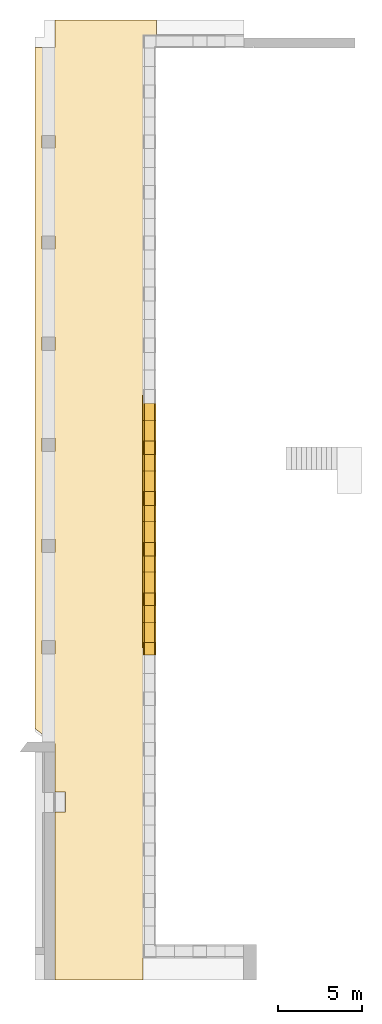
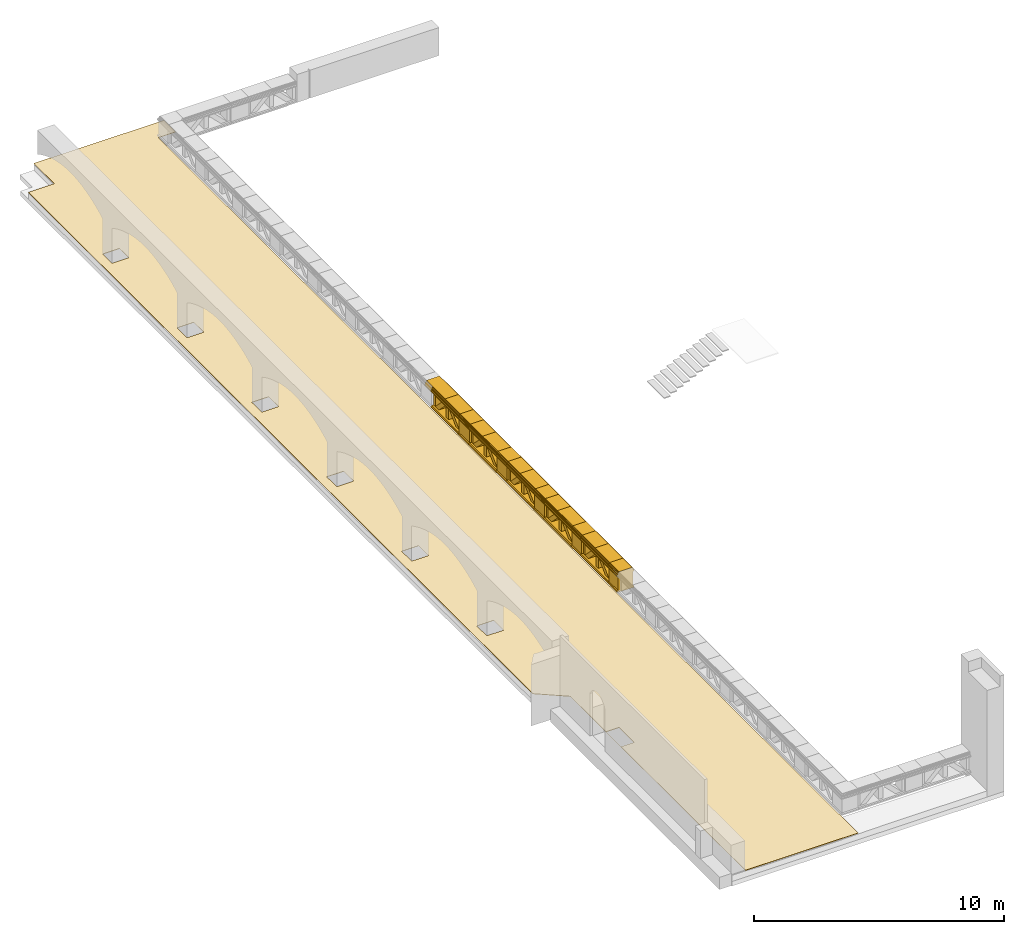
# One storey, part 7 of 9: 20 railings, 1 covering, 7 openings.
"""IFC2X3 building model written with IfcOpenShell, lengths in millimetres."""

import ifcopenshell
import ifcopenshell.guid

model = None  # the IFC model being written
_history = None  # IfcOwnerHistory: only IFC2X3 demands one
_inside = {}  # id of a spatial element -> (the spatial element, [elements in it])
_under = {}  # id of a project, library or spatial element -> (it, [spatial elements below it])
_declared = {}  # id of a project -> (the project, [libraries it declares])
_typed = {}  # id of a type object -> (the type object, [elements of that type])
_made_of = {}  # id of a material, layer set ... -> (it, [elements and type objects made of it])


def new_model(schema):
    """Start an empty IFC model of exactly this schema.

    Asked for "IFC4X3", IfcOpenShell would pick the latest addendum, in which some entities
    have other attributes; the version numbers below select the first issue.
    IFC2X3 requires an IfcOwnerHistory on every rooted entity: one is made here for all.
    """
    global model, _history
    if schema == "IFC4X3":
        model = ifcopenshell.file(schema_version=(4, 3, 0, 0))
    else:
        model = ifcopenshell.file(schema=schema)
    _inside.clear()
    _under.clear()
    _declared.clear()
    _typed.clear()
    _made_of.clear()
    _history = None
    if model.schema == "IFC2X3":
        org = make("IfcOrganization", Name="unknown")
        user = make(
            "IfcPersonAndOrganization",
            ThePerson=make("IfcPerson", FamilyName="unknown"),
            TheOrganization=org,
        )
        app = make(
            "IfcApplication",
            ApplicationDeveloper=org,
            Version="unknown",
            ApplicationFullName="unknown",
            ApplicationIdentifier="unknown",
        )
        _history = make(
            "IfcOwnerHistory",
            OwningUser=user,
            OwningApplication=app,
            ChangeAction="ADDED",
            CreationDate=0,
        )
    return model


def make(cls, **values):
    """One entity of the class cls with the attributes given. An attribute that is None is left unset."""
    return model.create_entity(
        cls, **{name: value for name, value in values.items() if value is not None}
    )


def entity(cls, *values):
    """Any entity or typed value of the class cls, its attributes in the order of the schema. None: left unset."""
    e = model.create_entity(cls)
    for i, value in enumerate(values):
        if value is not None:
            e[i] = value
    return e


def rooted(cls, **values):
    """An entity with a GlobalId (a new one), such as an element, a storey or a relation."""
    return make(cls, GlobalId=ifcopenshell.guid.new(), OwnerHistory=_history, **values)


def si_unit(unit_type, name, prefix=None):
    """IfcSIUnit, for example si_unit("LENGTHUNIT", "METRE", prefix="MILLI")."""
    return make("IfcSIUnit", UnitType=unit_type, Prefix=prefix, Name=name)


def converted_unit(unit_type, name, factor, base, dimensions=None, offset=None):
    """IfcConversionBasedUnit, such as the inch: factor (a typed value) times the base unit."""
    return make(
        "IfcConversionBasedUnit"
        if offset is None
        else "IfcConversionBasedUnitWithOffset",
        ConversionOffset=offset,
        Dimensions=None
        if dimensions is None
        else entity("IfcDimensionalExponents", *dimensions),
        UnitType=unit_type,
        Name=name,
        ConversionFactor=make(
            "IfcMeasureWithUnit", ValueComponent=factor, UnitComponent=base
        ),
    )


def derived_unit(unit_type, elements):
    """IfcDerivedUnit: a product of units, each with its exponent."""
    return make(
        "IfcDerivedUnit",
        Elements=[
            make("IfcDerivedUnitElement", Unit=unit, Exponent=power)
            for unit, power in elements
        ],
        UnitType=unit_type,
    )


def assignment(units):
    """IfcUnitAssignment: the units of a project."""
    return None if units is None else make("IfcUnitAssignment", Units=units)


def point(xyz):
    """IfcCartesianPoint."""
    return None if xyz is None else make("IfcCartesianPoint", Coordinates=xyz)


def direction(xyz):
    """IfcDirection."""
    return None if xyz is None else make("IfcDirection", DirectionRatios=xyz)


def frame(location, z_axis=None, x_axis=None):
    """IfcAxis2Placement3D, a coordinate frame: its origin and axes. An axis left out is left unset."""
    return make(
        "IfcAxis2Placement3D",
        Location=point(location),
        Axis=direction(z_axis),
        RefDirection=direction(x_axis),
    )


def frame_2d(location, x_axis=None):
    """IfcAxis2Placement2D, a coordinate frame in the plane: its origin and x axis."""
    return make(
        "IfcAxis2Placement2D", Location=point(location), RefDirection=direction(x_axis)
    )


def origin():
    """The frame at (0, 0, 0) with its axes left unset."""
    return frame((0.0, 0.0, 0.0))


def origin_2d_with_axis():
    """The frame at (0, 0) in the plane with the x axis (1, 0) written out."""
    return frame_2d((0.0, 0.0), x_axis=(1.0, 0.0))


def place(relative_to, where):
    """IfcLocalPlacement: puts the frame where relative to a parent placement (None: the world)."""
    return make(
        "IfcLocalPlacement", PlacementRelTo=relative_to, RelativePlacement=where
    )


def context(
    kind, dimensions, precision=None, world=None, true_north=None, identifier=None
):
    """IfcGeometricRepresentationContext, for example the 3D "Model" context."""
    return make(
        "IfcGeometricRepresentationContext",
        ContextIdentifier=identifier,
        ContextType=kind,
        CoordinateSpaceDimension=dimensions,
        Precision=precision,
        WorldCoordinateSystem=world,
        TrueNorth=true_north,
    )


def subcontext(parent, identifier, kind, view, scale=None):
    """IfcGeometricRepresentationSubContext, for example "Body" below "Model"."""
    return make(
        "IfcGeometricRepresentationSubContext",
        ContextIdentifier=identifier,
        ContextType=kind,
        ParentContext=parent,
        TargetScale=scale,
        TargetView=view,
    )


def project(units=None, contexts=None):
    """IfcProject with its units and contexts."""
    return rooted(
        "IfcProject",
        Name="project",
        RepresentationContexts=contexts,
        UnitsInContext=assignment(units),
    )


def spatial(cls, under=None, at=None, **own):
    """A site, building, storey or space (cls), placed at a placement, below another one or the project."""
    s = rooted(cls, ObjectPlacement=at, **own)
    if under is not None:
        _under.setdefault(under.id(), (under, []))[1].append(s)
    return s


def polyline(points):
    """IfcPolyline through the points."""
    return make("IfcPolyline", Points=[point(p) for p in points])


def profile(cls, at=None, kind="AREA", **sizes):
    """A parametric profile (cls). Its sizes go by their IFC names, for example OverallWidth=200.0."""
    return make(cls, ProfileType=kind, Position=at, **sizes)


def rectangle(**sizes):
    """IfcRectangleProfileDef."""
    return profile("IfcRectangleProfileDef", **sizes)


def outline(outer, holes=None, kind="AREA"):
    """IfcArbitraryClosedProfileDef: a profile drawn as a closed curve; with holes, ...WithVoids."""
    if holes is None:
        return make("IfcArbitraryClosedProfileDef", ProfileType=kind, OuterCurve=outer)
    return make(
        "IfcArbitraryProfileDefWithVoids",
        ProfileType=kind,
        OuterCurve=outer,
        InnerCurves=holes,
    )


def extrude(swept, where, along, depth):
    """IfcExtrudedAreaSolid: the profile swept, set in the frame where, extruded along a direction by depth."""
    return make(
        "IfcExtrudedAreaSolid",
        SweptArea=swept,
        Position=where,
        ExtrudedDirection=direction(along),
        Depth=depth,
    )


def faces_of(points, faces, orient=None, outer=None):
    """IfcFace entities. A face is a list of loops; a loop is a list of indices into points, from 0.

    orient and outer hold one flag for each loop. By default every Orientation is true, the
    first loop of a face is its IfcFaceOuterBound and the others are IfcFaceBound.
    """
    made = []
    for i, loops in enumerate(faces):
        bounds = []
        for j, loop in enumerate(loops):
            is_outer = j == 0 if outer is None else outer[i][j]
            bounds.append(
                make(
                    "IfcFaceOuterBound" if is_outer else "IfcFaceBound",
                    Bound=make("IfcPolyLoop", Polygon=[points[k] for k in loop]),
                    Orientation=True if orient is None else orient[i][j],
                )
            )
        made.append(make("IfcFace", Bounds=bounds))
    return made


def faceted_brep(points, faces, orient=None, outer=None, voids=None):
    """IfcFacetedBrep: a solid bounded by flat faces; with voids (closed shells), ...WithVoids."""
    shared = [point(p) for p in points]
    hull = make("IfcClosedShell", CfsFaces=faces_of(shared, faces, orient, outer))
    if voids is None:
        return make("IfcFacetedBrep", Outer=hull)
    return make(
        "IfcFacetedBrepWithVoids",
        Outer=hull,
        Voids=[
            make(cls, CfsFaces=faces_of(shared, fs, o, b)) for cls, fs, o, b in voids
        ],
    )


def shape(context_of_items, identifier, shape_type, items):
    """IfcShapeRepresentation: the items that make up one representation, for example the "Body"."""
    return make(
        "IfcShapeRepresentation",
        ContextOfItems=context_of_items,
        RepresentationIdentifier=identifier,
        RepresentationType=shape_type,
        Items=items,
    )


def source(mapping_origin, context_of_items, identifier, shape_type, items):
    """IfcRepresentationMap: a shape defined once, which mapped items show again and again."""
    return make(
        "IfcRepresentationMap",
        MappingOrigin=mapping_origin,
        MappedRepresentation=shape(context_of_items, identifier, shape_type, items),
    )


def transform(
    local_origin,
    x_axis=None,
    y_axis=None,
    z_axis=None,
    scale=None,
    scale2=None,
    scale3=None,
    uniform=True,
):
    """IfcCartesianTransformationOperator3D, or its non-uniform kind. x_axis, y_axis, z_axis: its Axis1, 2, 3."""
    if uniform:
        return make(
            "IfcCartesianTransformationOperator3D",
            Axis1=direction(x_axis),
            Axis2=direction(y_axis),
            LocalOrigin=point(local_origin),
            Scale=scale,
            Axis3=direction(z_axis),
        )
    return make(
        "IfcCartesianTransformationOperator3DnonUniform",
        Axis1=direction(x_axis),
        Axis2=direction(y_axis),
        LocalOrigin=point(local_origin),
        Scale=scale,
        Axis3=direction(z_axis),
        Scale2=scale2,
        Scale3=scale3,
    )


def mapped(mapping_source, mapping_target):
    """IfcMappedItem: shows the shape of a source again, moved by a transform."""
    return make(
        "IfcMappedItem", MappingSource=mapping_source, MappingTarget=mapping_target
    )


def material(Name=None, Category=None):
    """IfcMaterial."""
    return make("IfcMaterial", Name=Name, Category=Category)


def layer(
    of_material, thickness, ventilated=None, Name=None, Category=None, Priority=None
):
    """IfcMaterialLayer: one layer of a wall or slab, of a material (None: an air gap)."""
    return make(
        "IfcMaterialLayer",
        Material=of_material,
        LayerThickness=thickness,
        IsVentilated=ventilated,
        Name=Name,
        Category=Category,
        Priority=Priority,
    )


def layer_set(layers, Name=None):
    """IfcMaterialLayerSet."""
    return make("IfcMaterialLayerSet", MaterialLayers=layers, LayerSetName=Name)


def layer_usage(for_layer_set, set_direction, sense, offset, extent=None):
    """IfcMaterialLayerSetUsage: how a layer set lies in its element."""
    return make(
        "IfcMaterialLayerSetUsage",
        ForLayerSet=for_layer_set,
        LayerSetDirection=set_direction,
        DirectionSense=sense,
        OffsetFromReferenceLine=offset,
        ReferenceExtent=extent,
    )


def made_of(thing, what):
    """Note that an element or type object is made of a material, layer set ...; save() writes the relation."""
    if what is not None:
        _made_of.setdefault(what.id(), (what, []))[1].append(thing)
    return thing


def type_object(cls, material=None, **own):
    """A type object (cls), such as IfcWallType, which elements share."""
    return made_of(rooted(cls, **own), material)


def type_shapes(of_type, sources):
    """Give a type object the sources (RepresentationMaps) that its elements show as mapped items."""
    of_type.RepresentationMaps = sources


def element(
    cls,
    number,
    at=None,
    inside=None,
    cuts=None,
    type_object=None,
    material=None,
    context=None,
    identifier="Body",
    shape_type=None,
    held_by="IfcProductDefinitionShape",
    body=None,
    shapes=None,
    **own,
):
    """One element of the class cls, such as IfcWall. Its Tag is "e" and its number.

    at: its placement. inside: the storey or other place that contains it. cuts: it is an
    opening in that element (IfcRelVoidsElement). A single representation is given by context,
    identifier, shape_type and body (its items); several are given by shapes. held_by: the class
    of the entity that holds the representations. save() writes the other relations.
    """
    e = rooted(cls, Tag="e%d" % number, ObjectPlacement=at, **own)
    if body is not None:
        shapes = [shape(context, identifier, shape_type, body)]
    if shapes is not None:
        e.Representation = make(held_by, Representations=shapes)
    if inside is not None:
        _inside.setdefault(inside.id(), (inside, []))[1].append(e)
    if cuts is not None:
        rooted(
            "IfcRelVoidsElement", RelatingBuildingElement=cuts, RelatedOpeningElement=e
        )
    if type_object is not None:
        _typed.setdefault(type_object.id(), (type_object, []))[1].append(e)
    return made_of(e, material)


def aggregate(whole, parts):
    """IfcRelAggregates: a whole, such as a stair, and the parts it consists of."""
    return rooted("IfcRelAggregates", RelatingObject=whole, RelatedObjects=parts)


def save(model, path):
    """Write the relations noted so far, then the file.

    IfcRelAggregates (storeys below a building ...), IfcRelContainedInSpatialStructure (elements
    in a storey), IfcRelDefinesByType, IfcRelAssociatesMaterial and IfcRelDeclares: one each for
    every whole, place, type object, material and project.
    """
    for whole, parts in _under.values():
        aggregate(whole, parts)
    for where, things in _inside.values():
        rooted(
            "IfcRelContainedInSpatialStructure",
            RelatedElements=things,
            RelatingStructure=where,
        )
    for kind, things in _typed.values():
        rooted("IfcRelDefinesByType", RelatedObjects=things, RelatingType=kind)
    for what, things in _made_of.values():
        rooted("IfcRelAssociatesMaterial", RelatedObjects=things, RelatingMaterial=what)
    for by, libraries in _declared.values():
        rooted("IfcRelDeclares", RelatingContext=by, RelatedDefinitions=libraries)
    model.write(path)


model = new_model("IFC2X3")

# Units and contexts
model_context = context("Model", 3, precision=0.01, world=origin(), true_north=direction((6.123031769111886e-17, 1.0)))
body_context = subcontext(model_context, "Body", "Model", "MODEL_VIEW")
ifc_project = project(units=[si_unit("LENGTHUNIT", "METRE", prefix="MILLI"), si_unit("AREAUNIT", "SQUARE_METRE"), si_unit("VOLUMEUNIT", "CUBIC_METRE"), converted_unit("PLANEANGLEUNIT", "DEGREE", entity("IfcPlaneAngleMeasure", 0.017453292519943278), si_unit("PLANEANGLEUNIT", "RADIAN"), dimensions=[0, 0, 0, 0, 0, 0, 0]), si_unit("MASSUNIT", "GRAM", prefix="KILO"), derived_unit("MASSDENSITYUNIT", [(si_unit("MASSUNIT", "GRAM", prefix="KILO"), 1), (si_unit("LENGTHUNIT", "METRE"), -3)]), derived_unit("IONCONCENTRATIONUNIT", [(si_unit("MASSUNIT", "GRAM", prefix="KILO"), 1), (si_unit("LENGTHUNIT", "METRE"), -3)]), derived_unit("MOMENTOFINERTIAUNIT", [(si_unit("LENGTHUNIT", "METRE"), 4)]), si_unit("TIMEUNIT", "SECOND"), si_unit("FREQUENCYUNIT", "HERTZ"), si_unit("THERMODYNAMICTEMPERATUREUNIT", "DEGREE_CELSIUS"), derived_unit("THERMALTRANSMITTANCEUNIT", [(si_unit("MASSUNIT", "GRAM", prefix="KILO"), 1), (si_unit("THERMODYNAMICTEMPERATUREUNIT", "KELVIN"), -1), (si_unit("TIMEUNIT", "SECOND"), -3)]), derived_unit("THERMALCONDUCTANCEUNIT", [(si_unit("MASSUNIT", "GRAM", prefix="KILO"), 1), (si_unit("THERMODYNAMICTEMPERATUREUNIT", "KELVIN"), -1), (si_unit("TIMEUNIT", "SECOND"), -3), (si_unit("LENGTHUNIT", "METRE"), 1)]), derived_unit("VOLUMETRICFLOWRATEUNIT", [(si_unit("LENGTHUNIT", "METRE", prefix="DECI"), 3), (si_unit("TIMEUNIT", "SECOND"), -1)]), derived_unit("MASSFLOWRATEUNIT", [(si_unit("MASSUNIT", "GRAM", prefix="KILO"), 1), (si_unit("TIMEUNIT", "SECOND"), -1)]), derived_unit("ROTATIONALFREQUENCYUNIT", [(si_unit("TIMEUNIT", "SECOND"), -1)]), si_unit("ELECTRICCURRENTUNIT", "AMPERE"), si_unit("ELECTRICVOLTAGEUNIT", "VOLT"), si_unit("POWERUNIT", "WATT"), si_unit("FORCEUNIT", "NEWTON", prefix="KILO"), si_unit("ILLUMINANCEUNIT", "LUX"), si_unit("LUMINOUSFLUXUNIT", "LUMEN"), si_unit("LUMINOUSINTENSITYUNIT", "CANDELA"), si_unit("ENERGYUNIT", "JOULE"), derived_unit("USERDEFINED", [(si_unit("MASSUNIT", "GRAM", prefix="KILO"), -1), (si_unit("LENGTHUNIT", "METRE"), -2), (si_unit("TIMEUNIT", "SECOND"), 3), (si_unit("LUMINOUSFLUXUNIT", "LUMEN"), 1)]), derived_unit("USERDEFINED", [(si_unit("MASSUNIT", "GRAM", prefix="KILO"), 1), (si_unit("TIMEUNIT", "SECOND"), -3), (si_unit("LENGTHUNIT", "METRE"), 3), (si_unit("ELECTRICCURRENTUNIT", "AMPERE"), -2)]), derived_unit("SOUNDPOWERUNIT", [(si_unit("MASSUNIT", "GRAM", prefix="KILO"), 1), (si_unit("TIMEUNIT", "SECOND"), -3), (si_unit("LENGTHUNIT", "METRE"), 2)]), derived_unit("SOUNDPRESSUREUNIT", [(si_unit("MASSUNIT", "GRAM", prefix="KILO"), 1), (si_unit("LENGTHUNIT", "METRE"), -1), (si_unit("TIMEUNIT", "SECOND"), -2)]), derived_unit("LINEARVELOCITYUNIT", [(si_unit("LENGTHUNIT", "METRE"), 1), (si_unit("TIMEUNIT", "SECOND"), -1)]), si_unit("PRESSUREUNIT", "PASCAL"), derived_unit("USERDEFINED", [(si_unit("MASSUNIT", "GRAM", prefix="KILO"), 1), (si_unit("LENGTHUNIT", "METRE"), -2), (si_unit("TIMEUNIT", "SECOND"), -2)]), derived_unit("LINEARFORCEUNIT", [(si_unit("MASSUNIT", "GRAM", prefix="KILO"), 1), (si_unit("TIMEUNIT", "SECOND"), -2)]), derived_unit("PLANARFORCEUNIT", [(si_unit("MASSUNIT", "GRAM", prefix="KILO"), 1), (si_unit("LENGTHUNIT", "METRE"), -1), (si_unit("TIMEUNIT", "SECOND"), -2)]), derived_unit("SPECIFICHEATCAPACITYUNIT", [(si_unit("THERMODYNAMICTEMPERATUREUNIT", "KELVIN"), -1), (si_unit("LENGTHUNIT", "METRE"), 2), (si_unit("TIMEUNIT", "SECOND"), -2)]), derived_unit("HEATFLUXDENSITYUNIT", [(si_unit("MASSUNIT", "GRAM", prefix="KILO"), 1), (si_unit("TIMEUNIT", "SECOND"), -3)]), derived_unit("HEATINGVALUEUNIT", [(si_unit("LENGTHUNIT", "METRE"), 2), (si_unit("TIMEUNIT", "SECOND"), -2)]), derived_unit("VAPORPERMEABILITYUNIT", [(si_unit("LENGTHUNIT", "METRE"), -1), (si_unit("TIMEUNIT", "SECOND"), 1)]), derived_unit("DYNAMICVISCOSITYUNIT", [(si_unit("MASSUNIT", "GRAM", prefix="KILO"), 1), (si_unit("TIMEUNIT", "SECOND"), -1), (si_unit("LENGTHUNIT", "METRE"), -1)]), derived_unit("THERMALEXPANSIONCOEFFICIENTUNIT", [(si_unit("THERMODYNAMICTEMPERATUREUNIT", "KELVIN"), -1)]), derived_unit("MODULUSOFELASTICITYUNIT", [(si_unit("MASSUNIT", "GRAM", prefix="KILO"), 1), (si_unit("LENGTHUNIT", "METRE"), -1), (si_unit("TIMEUNIT", "SECOND"), -2)]), derived_unit("ISOTHERMALMOISTURECAPACITYUNIT", [(si_unit("MASSUNIT", "GRAM", prefix="KILO"), -1), (si_unit("LENGTHUNIT", "METRE"), 3)]), derived_unit("MOISTUREDIFFUSIVITYUNIT", [(si_unit("TIMEUNIT", "SECOND"), -1), (si_unit("LENGTHUNIT", "METRE"), 2)]), derived_unit("MASSPERLENGTHUNIT", [(si_unit("MASSUNIT", "GRAM", prefix="KILO"), 1), (si_unit("LENGTHUNIT", "METRE"), -1)]), derived_unit("THERMALRESISTANCEUNIT", [(si_unit("MASSUNIT", "GRAM", prefix="KILO"), -1), (si_unit("TIMEUNIT", "SECOND"), 3), (si_unit("THERMODYNAMICTEMPERATUREUNIT", "KELVIN"), 1)]), derived_unit("ACCELERATIONUNIT", [(si_unit("LENGTHUNIT", "METRE"), 1), (si_unit("TIMEUNIT", "SECOND"), -2)]), derived_unit("ANGULARVELOCITYUNIT", [(si_unit("TIMEUNIT", "SECOND"), -1), (si_unit("PLANEANGLEUNIT", "RADIAN"), 1)]), derived_unit("LINEARSTIFFNESSUNIT", [(si_unit("MASSUNIT", "GRAM", prefix="KILO"), 1), (si_unit("TIMEUNIT", "SECOND"), -2)]), derived_unit("WARPINGCONSTANTUNIT", [(si_unit("LENGTHUNIT", "METRE"), 6)]), derived_unit("LINEARMOMENTUNIT", [(si_unit("MASSUNIT", "GRAM", prefix="KILO"), 1), (si_unit("LENGTHUNIT", "METRE"), 1), (si_unit("TIMEUNIT", "SECOND"), -2)]), derived_unit("TORQUEUNIT", [(si_unit("MASSUNIT", "GRAM", prefix="KILO"), 1), (si_unit("LENGTHUNIT", "METRE"), 2), (si_unit("TIMEUNIT", "SECOND"), -2)])], contexts=[model_context])

# Site, building, storey
site_placement = place(None, origin())
site = spatial("IfcSite", under=ifc_project, at=site_placement, Name="Default", CompositionType="ELEMENT")
building_placement = place(site_placement, origin())
building = spatial("IfcBuilding", under=site, at=building_placement, Name="Eesti Rahvusraamatukogu hoone renoveerimise projekteerimistööd", CompositionType="ELEMENT")
storey_placement = place(building_placement, frame((0.0, 0.0, 3100.0)))
storey = spatial("IfcBuildingStorey", under=building, at=storey_placement, Name="E-korpus 2. korrus", CompositionType="ELEMENT", Elevation=3100.0)

# Covering, openings
ifc_material_1 = material(Name="EST. Betoonplaat tume")
ifc_layer = layer(ifc_material_1, 20.0)
ifc_layer_set = layer_set([ifc_layer], Name="Basic Roof:TV-01 plaat 1 (tume)")
ifc_layer_usage = layer_usage(ifc_layer_set, "AXIS3", "NEGATIVE", 0.0)
covering_type = type_object("IfcCoveringType", Name="Basic Roof:TV-01 plaat 1 (tume)", PredefinedType="NOTDEFINED")
covering_placement = place(storey_placement, frame((-49781.62808124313, -1321.279790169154, 410.0)))
covering = element("IfcCovering", 1, at=covering_placement, inside=storey, type_object=covering_type, material=ifc_layer_usage, Name="Basic Roof:TV-01 plaat 1 (tume)", ObjectType="Basic Roof:TV-01 plaat 1 (tume)", PredefinedType="NOTDEFINED", context=body_context, shape_type="SweptSolid", body=[
    extrude(outline(polyline([(2006.6743837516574, -18767.746340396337), (3205.8024649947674, -18767.746340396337), (3205.8024649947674, 21636.799927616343), (2006.6743837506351, 22540.40774982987), (2006.6743837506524, 36559.33344977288), (-3203.3256162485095, 36559.33344977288), (-3203.3256162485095, -19472.322620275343), (-4015.8256162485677, -19472.322620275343), (-4015.8256162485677, -20407.8683278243), (2006.6743837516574, -20407.8683278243), (2006.6743837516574, -18767.746340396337)])), frame((3205.8024649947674, 36559.33344977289, 0.0), z_axis=(0.0, 0.0, 1.0), x_axis=(-1.0, 0.0, 0.0)), (0.0, 0.0, 1.0), 19.999999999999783),
])
opening_1_placement = place(storey_placement, frame((-49781.62808124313, -1321.279790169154, 410.0)))
element("IfcOpeningElement", 2, at=opening_1_placement, cuts=covering, Name="Basic Roof:TV-01 plaat 1 (tume):1", ObjectType="Opening", context=body_context, shape_type="SweptSolid", body=[
    extrude(rectangle(XDim=600.0000000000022, YDim=1200.0000000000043, at=origin_2d_with_axis()), frame((1501.6280812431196, 10561.938141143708, 0.0), z_axis=(0.0, 0.0, 1.0), x_axis=(-1.0, 0.0, 0.0)), (0.0, 0.0, 1.0), 19.999999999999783),
])
opening_2_placement = place(storey_placement, frame((-49781.62808124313, -1321.279790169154, 410.0)))
element("IfcOpeningElement", 3, at=opening_2_placement, cuts=covering, Name="Basic Roof:TV-01 plaat 1 (tume):2", ObjectType="Opening", context=body_context, shape_type="SweptSolid", body=[
    extrude(rectangle(XDim=779.9999999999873, YDim=792.9237201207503, at=frame_2d((-4.320099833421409e-12, 0.0), x_axis=(1.0, 0.0))), frame((809.1280812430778, 31763.5416502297, 0.0)), (0.0, 0.0, 1.0), 19.999999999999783),
])
opening_3_placement = place(storey_placement, frame((-49781.62808124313, -1321.279790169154, 410.0)))
element("IfcOpeningElement", 4, at=opening_3_placement, cuts=covering, Name="Basic Roof:TV-01 plaat 1 (tume):3", ObjectType="Opening", context=body_context, shape_type="SweptSolid", body=[
    extrude(rectangle(XDim=792.9237201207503, YDim=779.9999999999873, at=frame_2d((0.0, 4.320099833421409e-12), x_axis=(1.0, 0.0))), frame((809.1280812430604, 25763.54165022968, 0.0), z_axis=(0.0, 0.0, 1.0), x_axis=(0.0, -1.0, 0.0)), (0.0, 0.0, 1.0), 19.999999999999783),
])
opening_4_placement = place(storey_placement, frame((-49781.62808124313, -1321.279790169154, 410.0)))
element("IfcOpeningElement", 5, at=opening_4_placement, cuts=covering, Name="Basic Roof:TV-01 plaat 1 (tume):4", ObjectType="Opening", context=body_context, shape_type="SweptSolid", body=[
    extrude(rectangle(XDim=792.9237201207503, YDim=779.9999999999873, at=frame_2d((0.0, 4.320099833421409e-12), x_axis=(1.0, 0.0))), frame((809.1280812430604, 19750.61793010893, 0.0), z_axis=(0.0, 0.0, 1.0), x_axis=(0.0, 1.0, 0.0)), (0.0, 0.0, 1.0), 19.999999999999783),
])
opening_5_placement = place(storey_placement, frame((-49781.62808124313, -1321.279790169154, 410.0)))
element("IfcOpeningElement", 6, at=opening_5_placement, cuts=covering, Name="Basic Roof:TV-01 plaat 1 (tume):5", ObjectType="Opening", context=body_context, shape_type="SweptSolid", body=[
    extrude(rectangle(XDim=792.9237201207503, YDim=779.9999999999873, at=frame_2d((0.0, 4.320099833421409e-12), x_axis=(1.0, 0.0))), frame((809.1280812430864, 43763.54165022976, 0.0), z_axis=(0.0, 0.0, 1.0), x_axis=(0.0, -1.0, 0.0)), (0.0, 0.0, 1.0), 19.999999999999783),
])
opening_6_placement = place(storey_placement, frame((-49781.62808124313, -1321.279790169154, 410.0)))
element("IfcOpeningElement", 7, at=opening_6_placement, cuts=covering, Name="Basic Roof:TV-01 plaat 1 (tume):6", ObjectType="Opening", context=body_context, shape_type="SweptSolid", body=[
    extrude(rectangle(XDim=792.9237201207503, YDim=779.9999999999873, at=frame_2d((4.320099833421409e-12, 4.320099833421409e-12), x_axis=(1.0, 0.0))), frame((809.1280812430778, 37763.54165022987, 0.0), z_axis=(0.0, 0.0, 1.0), x_axis=(0.0, -1.0, 0.0)), (0.0, 0.0, 1.0), 19.999999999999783),
])
opening_7_placement = place(storey_placement, frame((-49781.62808124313, -1321.279790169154, 410.0)))
element("IfcOpeningElement", 8, at=opening_7_placement, cuts=covering, Name="Basic Roof:TV-01 plaat 1 (tume):7", ObjectType="Opening", context=body_context, shape_type="SweptSolid", body=[
    extrude(rectangle(XDim=779.9999999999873, YDim=740.0000000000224, at=frame_2d((4.320099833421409e-12, 0.0), x_axis=(1.0, 0.0))), frame((809.128081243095, 49737.07979016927, 0.0)), (0.0, 0.0, 1.0), 19.999999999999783),
])

# Railings
ifc_material_2 = material(Name="LUMION_facade concrete")
railing_type_1 = type_object("IfcRailingType", Name="MK piire, katusepõhine 1:Railing Roof Based", PredefinedType="NOTDEFINED", material=ifc_material_2)
shared_shape_1 = source(origin(), body_context, "Body", "Brep", [
    faceted_brep([(1100.0, -261.2500000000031, 420.0), (1100.0, 261.2500000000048, 420.0), (1100.0, 261.25000000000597, 1210.0), (1100.0, 396.2500000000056, 1210.0), (1100.0, 396.2500000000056, 1260.882352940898), (1100.0, 376.25000000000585, 1305.0), (1100.0, 346.25000000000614, 1305.0), (1100.0, 346.2500000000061, 1362.4999999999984), (1100.0, 329.25000000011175, 1400.0), (1100.0, 306.25000000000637, 1420.0), (1100.0, -306.2500000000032, 1420.0), (1100.0, -329.250000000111, 1400.0), (1100.0, -346.25000000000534, 1362.4999999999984), (1100.0, -346.25000000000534, 1305.0), (1100.0, -376.250000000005, 1305.0), (1100.0, -396.25000000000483, 1260.882352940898), (1100.0, -396.25000000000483, 1210.0), (1100.0, -261.2500000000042, 1210.0), (-1100.0, -261.2500000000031, 420.0), (-1100.0, -261.2500000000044, 1210.0), (-1100.0, -396.25000000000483, 1210.0), (-1100.0, -396.25000000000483, 1260.882352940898), (-1100.0, -376.250000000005, 1305.0), (-1100.0, -346.25000000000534, 1305.0), (-1100.0, -346.25000000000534, 1362.4999999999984), (-1100.0, -329.250000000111, 1400.0), (-1100.0, -306.25000000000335, 1420.0), (-1100.0, 306.25000000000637, 1420.0), (-1100.0, 329.25000000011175, 1400.0), (-1100.0, 346.2500000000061, 1362.4999999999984), (-1100.0, 346.25000000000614, 1305.0), (-1100.0, 376.25000000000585, 1305.0), (-1100.0, 396.2500000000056, 1260.882352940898), (-1100.0, 396.2500000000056, 1210.0), (-1100.0, 261.25000000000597, 1210.0), (-1100.0, 261.2500000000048, 420.0), (970.0, -261.2500000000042, 1210.0), (970.0, -261.2500000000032, 515.0), (275.0, -261.2500000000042, 1210.0), (-275.0, -261.2500000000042, 1210.0), (-970.0, -261.2500000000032, 515.0), (-970.0, -261.2500000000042, 1210.0), (680.0, -261.2500000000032, 515.0), (100.0, -261.2500000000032, 515.0), (100.0, -261.25000000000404, 1095.0), (-100.0, -261.2500000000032, 515.0), (-680.0, -261.2500000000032, 515.0), (-100.0, -261.25000000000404, 1095.0), (-970.0, 261.25000000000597, 1210.0), (-970.0, 261.25000000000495, 515.0), (-275.0, 261.25000000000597, 1210.0), (275.0, 261.25000000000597, 1210.0), (970.0, 261.25000000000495, 515.0), (970.0, 261.25000000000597, 1210.0), (100.0, 261.25000000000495, 515.0), (680.0, 261.25000000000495, 515.0), (100.0, 261.2500000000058, 1095.0), (-680.0, 261.25000000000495, 515.0), (-100.0, 261.25000000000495, 515.0), (-100.0, 261.2500000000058, 1095.0)], [[[0, 1, 2, 3, 4, 5, 6, 7, 8, 9, 10, 11, 12, 13, 14, 15, 16, 17]], [[18, 19, 20, 21, 22, 23, 24, 25, 26, 27, 28, 29, 30, 31, 32, 33, 34, 35]], [[0, 17, 36, 37, 38, 39, 40, 41, 19, 18], [42, 43, 44], [45, 46, 47]], [[1, 0, 18, 35]], [[2, 1, 35, 34, 48, 49, 50, 51, 52, 53], [54, 55, 56], [57, 58, 59]], [[3, 2, 53, 36, 17, 16, 20, 19, 41, 48, 34, 33], [50, 39, 38, 51]], [[4, 3, 33, 32]], [[5, 4, 32, 31]], [[6, 5, 31, 30]], [[7, 6, 30, 29]], [[8, 7, 29, 28]], [[9, 8, 28, 27]], [[10, 9, 27, 26]], [[11, 10, 26, 25]], [[12, 11, 25, 24]], [[13, 12, 24, 23]], [[14, 13, 23, 22]], [[15, 14, 22, 21]], [[20, 16, 15, 21]], [[54, 43, 42, 55]], [[55, 42, 44, 56]], [[43, 54, 56, 44]], [[57, 46, 45, 58]], [[58, 45, 47, 59]], [[46, 57, 59, 47]], [[39, 50, 49, 40]], [[48, 41, 40, 49]], [[36, 53, 52, 37]], [[51, 38, 37, 52]]]),
    faceted_brep([(1100.0, -396.2500000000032, 420.0), (1100.0, -261.25000000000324, 420.0), (1100.0, -261.25000000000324, 515.0), (1100.0, -351.2500000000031, 515.0), (1100.0, -396.2500000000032, 483.4906607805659), (-1100.0, -396.2500000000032, 420.0), (-1100.0, -261.25000000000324, 420.0), (-1100.0, -261.25000000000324, 515.0), (-1100.0, -396.2500000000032, 483.4906607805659), (-1100.0, -351.2500000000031, 515.0)], [[[0, 1, 2, 3, 4]], [[1, 0, 5, 6]], [[2, 1, 6, 7]], [[0, 4, 8, 5]], [[3, 2, 7, 9]], [[4, 3, 9, 8]], [[5, 8, 9, 7, 6]]]),
    faceted_brep([(-1100.0, 396.250000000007, 420.0), (-1100.0, 261.2500000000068, 420.0), (-1100.0, 261.2500000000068, 515.0), (-1100.0, 351.25000000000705, 515.0), (-1100.0, 396.250000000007, 483.4906607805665), (1100.0, 396.250000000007, 483.4906607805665), (1100.0, 396.250000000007, 420.0), (1100.0, 261.2500000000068, 420.0), (1100.0, 261.2500000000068, 515.0), (1100.0, 351.25000000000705, 515.0)], [[[0, 1, 2, 3, 4]], [[5, 6, 0, 4]], [[7, 8, 2, 1]], [[6, 7, 1, 0]], [[9, 5, 4, 3]], [[8, 9, 3, 2]], [[6, 5, 9, 8, 7]]]),
])
type_shapes(railing_type_1, [shared_shape_1])
for number, where, z_axis, x_axis, name in (
    (9, (-42986.24999999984, 31775.000000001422, 60.0), (0.0, 0.0, 1.0), (0.0, -1.0, 0.0), "MK piire, katusepõhine 1:Railing Roof Based"),
    (10, (-42986.24999999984, 28755.00000000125, 60.0), (0.0, 0.0, 1.0), (0.0, -1.0, 0.0), "MK piire, katusepõhine 1:Railing Roof Based"),
    (11, (-42986.24999999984, 25745.000000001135, 60.0), (0.0, 0.0, 1.0), (0.0, -1.0, 0.0), "MK piire, katusepõhine 1:Railing Roof Based"),
    (12, (-42986.24999999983, 22752.308881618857, 60.0), (0.0, 0.0, 1.0), (0.0, -1.0, 0.0), "MK piire, katusepõhine 1:Railing Roof Based"),
    (13, (-42986.24999999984, 19798.718802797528, 60.0), (0.0, 0.0, 1.0), (0.0, -1.0, 0.0), "MK piire, katusepõhine 1:Railing Roof Based"),
):
    element("IfcRailing", number, at=place(storey_placement, frame(where, z_axis=z_axis, x_axis=x_axis)), inside=storey, type_object=railing_type_1, material=ifc_material_2, Name=name, ObjectType="MK piire, katusepõhine 1:Railing Roof Based", PredefinedType="NOTDEFINED", context=body_context, shape_type="MappedRepresentation", body=[
        mapped(shared_shape_1, transform((0.0, 0.0, 0.0), scale=1.0)),
    ])
railing_type_2 = type_object("IfcRailingType", Name="MK piire, katusepõhine 4:PR-03 - Piirde element väljas, tumm", PredefinedType="NOTDEFINED", material=ifc_material_2)
shared_shape_2 = source(origin(), body_context, "Body", "SweptSolid", [
    extrude(outline(polyline([(597.5887041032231, -396.25000000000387), (661.0793648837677, -396.25000000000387), (661.0793648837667, 396.2500000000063), (597.5887041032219, 396.25000000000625), (566.0793648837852, 351.2500000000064), (-128.92063511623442, 351.25000000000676), (-128.92063511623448, 396.2500000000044), (-179.80298805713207, 396.2500000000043), (-223.92063511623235, 376.2500000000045), (-223.92063511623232, 346.2500000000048), (-281.42063511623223, 346.2500000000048), (-318.9206351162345, 329.2500000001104), (-338.9206351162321, 306.250000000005), (-338.92063511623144, -306.2500000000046), (-318.9206351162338, -329.25000000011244), (-281.4206351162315, -346.2500000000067), (-223.92063511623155, -346.2500000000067), (-223.92063511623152, -376.25000000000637), (-179.80298805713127, -396.2500000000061), (-128.92063511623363, -396.250000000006), (-128.92063511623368, -351.25000000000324), (566.079364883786, -351.25000000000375), (597.5887041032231, -396.25000000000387)])), frame((-1100.0, 0.0, 1081.0793648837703), z_axis=(1.0, 0.0, 0.0), x_axis=(0.0, 0.0, -1.0)), (0.0, 0.0, 1.0), 819.9999999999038),
])
type_shapes(railing_type_2, [shared_shape_2])
railing_1_placement = place(storey_placement, frame((-42986.249999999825, 29575.00000000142, 60.0), z_axis=(0.0, 0.0, 1.0), x_axis=(0.0, -1.0, 0.0)))
element("IfcRailing", 14, at=railing_1_placement, inside=storey, type_object=railing_type_2, material=ifc_material_2, Name="MK piire, katusepõhine 4:PR-03 - Piirde element väljas, tumm", ObjectType="MK piire, katusepõhine 4:PR-03 - Piirde element väljas, tumm", PredefinedType="NOTDEFINED", context=body_context, shape_type="MappedRepresentation", body=[
    mapped(shared_shape_2, transform((0.0, 0.0, 0.0), scale=1.0)),
])
railing_type_3 = type_object("IfcRailingType", Name="MK piire, katusepõhine 4:PR-03 - Piirde element väljas, tumm", PredefinedType="NOTDEFINED", material=ifc_material_2)
shared_shape_3 = source(origin(), body_context, "Body", "SweptSolid", [
    extrude(outline(polyline([(597.5887041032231, -396.25000000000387), (661.0793648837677, -396.25000000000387), (661.0793648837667, 396.2500000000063), (597.5887041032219, 396.25000000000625), (566.0793648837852, 351.2500000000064), (-128.92063511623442, 351.25000000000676), (-128.92063511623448, 396.2500000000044), (-179.80298805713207, 396.2500000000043), (-223.92063511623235, 376.2500000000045), (-223.92063511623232, 346.2500000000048), (-281.42063511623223, 346.2500000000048), (-318.9206351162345, 329.2500000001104), (-338.9206351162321, 306.250000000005), (-338.92063511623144, -306.2500000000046), (-318.9206351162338, -329.25000000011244), (-281.4206351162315, -346.2500000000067), (-223.92063511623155, -346.2500000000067), (-223.92063511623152, -376.25000000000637), (-179.80298805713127, -396.2500000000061), (-128.92063511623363, -396.250000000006), (-128.92063511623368, -351.25000000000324), (566.079364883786, -351.25000000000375), (597.5887041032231, -396.25000000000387)])), frame((-1100.0, 0.0, 1081.0793648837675), z_axis=(1.0, 0.0, 0.0), x_axis=(0.0, 0.0, -1.0)), (0.0, 0.0, 1.0), 810.000000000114),
])
type_shapes(railing_type_3, [shared_shape_3])
railing_2_placement = place(storey_placement, frame((-42986.249999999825, 26555.000000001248, 60.0), z_axis=(0.0, 0.0, 1.0), x_axis=(0.0, -1.0, 0.0)))
element("IfcRailing", 15, at=railing_2_placement, inside=storey, type_object=railing_type_3, material=ifc_material_2, Name="MK piire, katusepõhine 4:PR-03 - Piirde element väljas, tumm", ObjectType="MK piire, katusepõhine 4:PR-03 - Piirde element väljas, tumm", PredefinedType="NOTDEFINED", context=body_context, shape_type="MappedRepresentation", body=[
    mapped(shared_shape_3, transform((0.0, 0.0, 0.0), scale=1.0)),
])
railing_type_4 = type_object("IfcRailingType", Name="MK piire, katusepõhine 4:PR-03 - Piirde element väljas, tumm", PredefinedType="NOTDEFINED", material=ifc_material_2)
shared_shape_4 = source(origin(), body_context, "Body", "SweptSolid", [
    extrude(outline(polyline([(597.5887041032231, -396.25000000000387), (661.0793648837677, -396.25000000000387), (661.0793648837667, 396.2500000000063), (597.5887041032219, 396.25000000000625), (566.0793648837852, 351.2500000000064), (-128.92063511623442, 351.25000000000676), (-128.92063511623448, 396.2500000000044), (-179.80298805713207, 396.2500000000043), (-223.92063511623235, 376.2500000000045), (-223.92063511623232, 346.2500000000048), (-281.42063511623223, 346.2500000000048), (-318.9206351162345, 329.2500000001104), (-338.9206351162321, 306.250000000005), (-338.92063511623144, -306.2500000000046), (-318.9206351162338, -329.25000000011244), (-281.4206351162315, -346.2500000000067), (-223.92063511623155, -346.2500000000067), (-223.92063511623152, -376.25000000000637), (-179.80298805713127, -396.2500000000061), (-128.92063511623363, -396.250000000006), (-128.92063511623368, -351.25000000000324), (566.079364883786, -351.25000000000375), (597.5887041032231, -396.25000000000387)])), frame((-1100.0, 0.0, 1081.0793648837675), z_axis=(1.0, 0.0, 0.0), x_axis=(0.0, 0.0, -1.0)), (0.0, 0.0, 1.0), 792.6911183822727),
])
type_shapes(railing_type_4, [shared_shape_4])
railing_3_placement = place(storey_placement, frame((-42986.249999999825, 23545.00000000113, 60.0), z_axis=(0.0, 0.0, 1.0), x_axis=(0.0, -1.0, 0.0)))
element("IfcRailing", 16, at=railing_3_placement, inside=storey, type_object=railing_type_4, material=ifc_material_2, Name="MK piire, katusepõhine 4:PR-03 - Piirde element väljas, tumm", ObjectType="MK piire, katusepõhine 4:PR-03 - Piirde element väljas, tumm", PredefinedType="NOTDEFINED", context=body_context, shape_type="MappedRepresentation", body=[
    mapped(shared_shape_4, transform((0.0, 0.0, 0.0), scale=1.0)),
])
railing_type_5 = type_object("IfcRailingType", Name="MK piire, katusepõhine 4:PR-03 - Piirde element väljas, tumm", PredefinedType="NOTDEFINED", material=ifc_material_2)
shared_shape_5 = source(origin(), body_context, "Body", "SweptSolid", [
    extrude(outline(polyline([(597.5887041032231, -396.25000000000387), (661.0793648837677, -396.25000000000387), (661.0793648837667, 396.2500000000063), (597.5887041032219, 396.25000000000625), (566.0793648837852, 351.2500000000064), (-128.92063511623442, 351.25000000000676), (-128.92063511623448, 396.2500000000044), (-179.80298805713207, 396.2500000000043), (-223.92063511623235, 376.2500000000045), (-223.92063511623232, 346.2500000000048), (-281.42063511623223, 346.2500000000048), (-318.9206351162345, 329.2500000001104), (-338.9206351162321, 306.250000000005), (-338.92063511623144, -306.2500000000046), (-318.9206351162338, -329.25000000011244), (-281.4206351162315, -346.2500000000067), (-223.92063511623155, -346.2500000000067), (-223.92063511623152, -376.25000000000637), (-179.80298805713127, -396.2500000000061), (-128.92063511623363, -396.250000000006), (-128.92063511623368, -351.25000000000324), (566.079364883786, -351.25000000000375), (597.5887041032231, -396.25000000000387)])), frame((-1100.0, 0.0, 1081.0793648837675), z_axis=(1.0, 0.0, 0.0), x_axis=(0.0, 0.0, -1.0)), (0.0, 0.0, 1.0), 753.5900788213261),
])
type_shapes(railing_type_5, [shared_shape_5])
railing_4_placement = place(storey_placement, frame((-42986.24999999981, 20552.308881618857, 60.0), z_axis=(0.0, 0.0, 1.0), x_axis=(0.0, -1.0, 0.0)))
element("IfcRailing", 17, at=railing_4_placement, inside=storey, type_object=railing_type_5, material=ifc_material_2, Name="MK piire, katusepõhine 4:PR-03 - Piirde element väljas, tumm", ObjectType="MK piire, katusepõhine 4:PR-03 - Piirde element väljas, tumm", PredefinedType="NOTDEFINED", context=body_context, shape_type="MappedRepresentation", body=[
    mapped(shared_shape_5, transform((0.0, 0.0, 0.0), scale=1.0)),
])
railing_type_6 = type_object("IfcRailingType", Name="MK piire, katusepõhine 4:PR-03 - Piirde element väljas, tumm", PredefinedType="NOTDEFINED", material=ifc_material_2)
shared_shape_6 = source(origin(), body_context, "Body", "SweptSolid", [
    extrude(outline(polyline([(597.5887041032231, -396.25000000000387), (661.0793648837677, -396.25000000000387), (661.0793648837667, 396.2500000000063), (597.5887041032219, 396.25000000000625), (566.0793648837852, 351.2500000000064), (-128.92063511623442, 351.25000000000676), (-128.92063511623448, 396.2500000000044), (-179.80298805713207, 396.2500000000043), (-223.92063511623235, 376.2500000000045), (-223.92063511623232, 346.2500000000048), (-281.42063511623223, 346.2500000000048), (-318.9206351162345, 329.2500000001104), (-338.9206351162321, 306.250000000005), (-338.92063511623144, -306.2500000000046), (-318.9206351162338, -329.25000000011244), (-281.4206351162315, -346.2500000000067), (-223.92063511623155, -346.2500000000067), (-223.92063511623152, -376.25000000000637), (-179.80298805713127, -396.2500000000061), (-128.92063511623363, -396.250000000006), (-128.92063511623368, -351.25000000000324), (566.079364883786, -351.25000000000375), (597.5887041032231, -396.25000000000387)])), frame((-1100.0, 0.0, 1081.0793648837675), z_axis=(1.0, 0.0, 0.0), x_axis=(0.0, 0.0, -1.0)), (0.0, 0.0, 1.0), 740.7188027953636),
])
type_shapes(railing_type_6, [shared_shape_6])
railing_5_placement = place(storey_placement, frame((-42986.249999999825, 17598.718802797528, 60.0), z_axis=(0.0, 0.0, 1.0), x_axis=(0.0, -1.0, 0.0)))
element("IfcRailing", 18, at=railing_5_placement, inside=storey, type_object=railing_type_6, material=ifc_material_2, Name="MK piire, katusepõhine 4:PR-03 - Piirde element väljas, tumm", ObjectType="MK piire, katusepõhine 4:PR-03 - Piirde element väljas, tumm", PredefinedType="NOTDEFINED", context=body_context, shape_type="MappedRepresentation", body=[
    mapped(shared_shape_6, transform((0.0, 0.0, 0.0), scale=1.0)),
])
railing_type_7 = type_object("IfcRailingType", Name="PR3 mütsi moodul:PR3.2 - laius 790mm, pikkus1500mm", PredefinedType="NOTDEFINED", material=ifc_material_2)
shared_shape_7 = source(origin(), body_context, "Body", "SweptSolid", [
    extrude(outline(polyline([(-256.5832470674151, -318.1431082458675), (-26.709628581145, -318.1431082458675), (218.55417468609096, 232.72841319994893), (64.73870096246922, 403.5578032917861), (-256.5832470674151, -318.1431082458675)])), frame((0.0, 0.0, 105.0), z_axis=(1.0, 0.0, 0.0), x_axis=(0.0, -0.40673664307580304, 0.9135454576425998)), (0.0, 0.0, 1.0), 1499.9999999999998),
])
type_shapes(railing_type_7, [shared_shape_7])
for number, where, z_axis, x_axis, name in (
    (19, (-42990.0, 19880.0, 1270.0), (0.0, 0.0, 1.0), (0.0, -1.0, 0.0), "PR3 mütsi moodul:PR3.2 - laius 790mm, pikkus1500mm"),
    (20, (-42990.0, 21380.0, 1270.0), (0.0, 0.0, 1.0), (0.0, -1.0, 0.0), "PR3 mütsi moodul:PR3.2 - laius 790mm, pikkus1500mm"),
    (21, (-42990.0, 22880.0, 1270.0), (0.0, 0.0, 1.0), (0.0, -1.0, 0.0), "PR3 mütsi moodul:PR3.2 - laius 790mm, pikkus1500mm"),
    (22, (-42990.0, 24380.0, 1270.0), (0.0, 0.0, 1.0), (0.0, -1.0, 0.0), "PR3 mütsi moodul:PR3.2 - laius 790mm, pikkus1500mm"),
    (23, (-42990.0, 25880.0, 1270.0), (0.0, 0.0, 1.0), (0.0, -1.0, 0.0), "PR3 mütsi moodul:PR3.2 - laius 790mm, pikkus1500mm"),
    (24, (-42990.0, 27380.0, 1270.0), (0.0, 0.0, 1.0), (0.0, -1.0, 0.0), "PR3 mütsi moodul:PR3.2 - laius 790mm, pikkus1500mm"),
    (25, (-42990.0, 28880.0, 1270.0), (0.0, 0.0, 1.0), (0.0, -1.0, 0.0), "PR3 mütsi moodul:PR3.2 - laius 790mm, pikkus1500mm"),
    (26, (-42990.0, 30380.0, 1270.0), (0.0, 0.0, 1.0), (0.0, -1.0, 0.0), "PR3 mütsi moodul:PR3.2 - laius 790mm, pikkus1500mm"),
    (27, (-42990.0, 31880.0, 1270.0), (0.0, 0.0, 1.0), (0.0, -1.0, 0.0), "PR3 mütsi moodul:PR3.2 - laius 790mm, pikkus1500mm"),
    (28, (-42990.0, 33380.0, 1270.0), (0.0, 0.0, 1.0), (0.0, -1.0, 0.0), "PR3 mütsi moodul:PR3.2 - laius 790mm, pikkus1500mm"),
):
    element("IfcRailing", number, at=place(storey_placement, frame(where, z_axis=z_axis, x_axis=x_axis)), inside=storey, type_object=railing_type_7, material=ifc_material_2, Name=name, ObjectType="PR3 mütsi moodul:PR3.2 - laius 790mm, pikkus1500mm", PredefinedType="NOTDEFINED", context=body_context, shape_type="MappedRepresentation", body=[
        mapped(shared_shape_7, transform((0.0, 0.0, 0.0), scale=1.0)),
    ])

save(model, "model.ifc")
